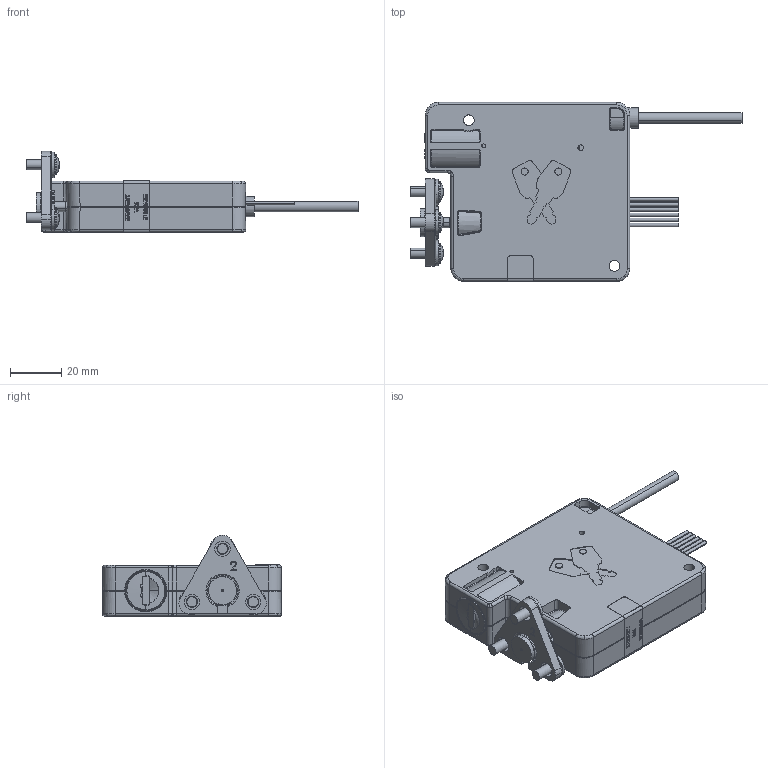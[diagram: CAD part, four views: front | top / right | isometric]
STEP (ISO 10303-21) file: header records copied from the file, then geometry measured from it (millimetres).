
FILE_DESCRIPTION (( 'STEP AP214' ), '1' );
FILE_NAME ('3792-customer.STEP', '2019-04-15T09:00:42', ( '' ), ( '' ), 'SwSTEP 2.0', 'SolidWorks 2019', '' );
FILE_SCHEMA (( 'AUTOMOTIVE_DESIGN' ));
Length unit declared in the file: millimetre
Products named in the file (23): 6620101; 8401089; 8719448; 9235429; bolt-flange-01; PHR-6; catton-inner-cable-01; latch-striker-assy-007; pan head cross recess screw_bsi_BS EN ISO 7045 - M3 x 10 - Z - 10N; catton-3491-01; Part1^3792-customer; 3792-customer; catton-outer-cable-01; Part2^3792-customer; 1119072; 9224201-WARRANTY; 9235437; S6B-PH-SM4-TB; 6601401_formed_cap; 8401087; pan head cross recess screw_bsi_BS EN ISO 7045 - M4 x 10 - Z - 10N; 8719450; 8401088
Assembly tree (27 placements, depth 3):
  Part1^3792-customer
  3792-customer
    8401087
    9235429
    pan head cross recess screw_bsi_BS EN ISO 7045 - M3 x 10 - Z - 10N  x4
    8401088
    latch-striker-assy-007
      8401089
      pan head cross recess screw_bsi_BS EN ISO 7045 - M4 x 10 - Z - 10N  x3
      bolt-flange-01  x3
      8719448
    9224201-WARRANTY
    9235437
    8719450
    catton-3491-01
    catton-inner-cable-01
    catton-outer-cable-01
    PHR-6
    S6B-PH-SM4-TB
    1119072
      6601401_formed_cap
      6620101
  Part2^3792-customer
Bounding box: 129.91 x 70.07 x 31.79 mm (x, y, z)
Volume: 51074.3 mm3; surface area: 51684.9 mm2
Topology: 46 solids, 46 shells, 4640 faces, 11159 edges, 6554 vertices
Faces by surface type: plane 1484, cylinder 1299, bspline 1120, torus 320, sphere 252, cone 165
Entity records: 168716 total; most frequent: CARTESIAN_POINT 67555, ORIENTED_EDGE 21010, DIRECTION 17638, EDGE_CURVE 10505, AXIS2_PLACEMENT_3D 6450, VERTEX_POINT 6259, LINE 4738, VECTOR 4738
